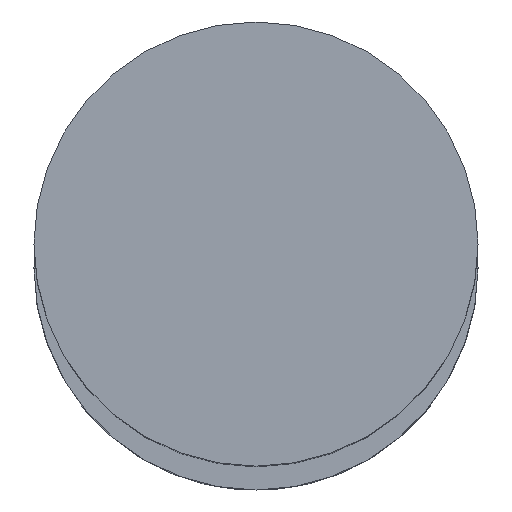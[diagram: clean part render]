
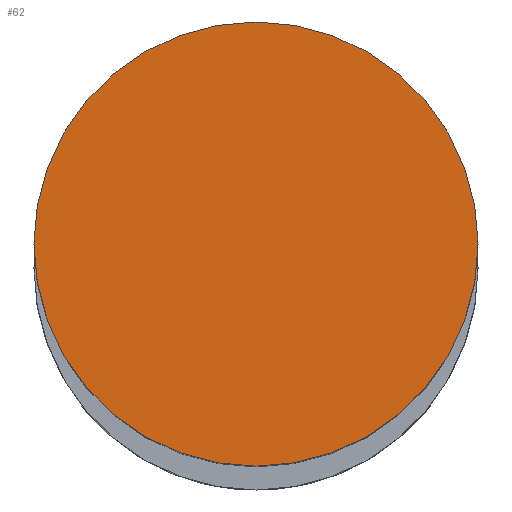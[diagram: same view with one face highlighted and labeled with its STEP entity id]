
A CAD part, top view. The second image highlights one B-rep face of the part: STEP entity #62.
In plain terms, the highlighted planar face has unit normal (0, 0, 1).
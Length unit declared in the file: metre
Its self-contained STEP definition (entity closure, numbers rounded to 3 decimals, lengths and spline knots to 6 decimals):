
#62=ADVANCED_FACE('0:129',(#139),#140,.T.);
#139=FACE_OUTER_BOUND('',#241,.T.);
#140=PLANE('',#242);
#241=EDGE_LOOP('',(#331,#332));
#242=AXIS2_PLACEMENT_3D('',#333,#334,#335);
#331=ORIENTED_EDGE('',*,*,#553,.F.);
#332=ORIENTED_EDGE('',*,*,#554,.F.);
#333=CARTESIAN_POINT('',(0.,0.,0.42));
#334=DIRECTION('',(0.0,0.0,1.0));
#335=DIRECTION('',(1.0,0.0,0.0));
#553=EDGE_CURVE('',#644,#645,#646,.F.);
#554=EDGE_CURVE('',#645,#644,#647,.F.);
#644=VERTEX_POINT('',#781);
#645=VERTEX_POINT('',#782);
#646=CIRCLE('',#783,0.008);
#647=CIRCLE('',#784,0.008);
#781=CARTESIAN_POINT('',(-0.00811,0.000133,0.42));
#782=CARTESIAN_POINT('',(0.00789,0.000133,0.42));
#783=AXIS2_PLACEMENT_3D('',#941,#942,#943);
#784=AXIS2_PLACEMENT_3D('',#944,#945,#946);
#941=CARTESIAN_POINT('',(-0.00011,0.000133,0.42));
#942=DIRECTION('',(0.0,0.0,1.0));
#943=DIRECTION('',(1.0,0.0,0.0));
#944=CARTESIAN_POINT('',(-0.00011,0.000133,0.42));
#945=DIRECTION('',(0.0,0.0,1.0));
#946=DIRECTION('',(1.0,0.0,0.0));
